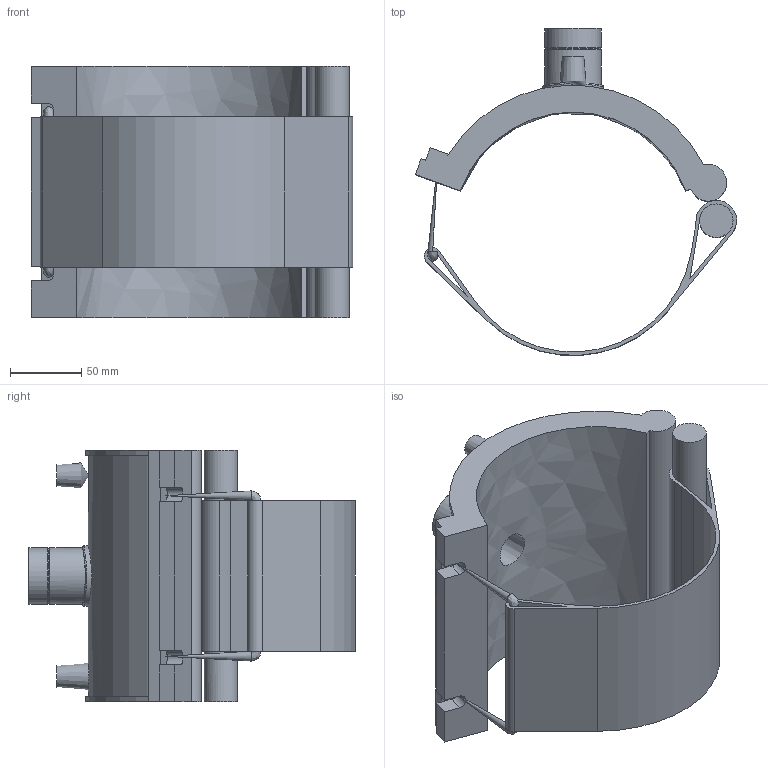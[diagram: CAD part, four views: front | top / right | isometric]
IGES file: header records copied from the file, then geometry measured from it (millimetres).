
Global section: file name: 5938B00306060.ipt; native system: Autodesk Inventor 2019; preprocessor: unknown; author: KIM; date: 20210830.101100; units: inch
Bounding box: 225.14 x 229.11 x 176.02 mm (x, y, z)
Volume: 1008398.8 mm3; surface area: 222011.6 mm2
Topology: 2 solids, 3 shells, 78 faces, 193 edges, 127 vertices
Faces by surface type: plane 42, cylinder 19, revolution 11, cone 5, bspline 1
Full cylindrical faces by diameter (mm): 4 x2, 6.72 x2, 23.391 x1, 38.378 x1, 39.378 x2, 42.407 x1
